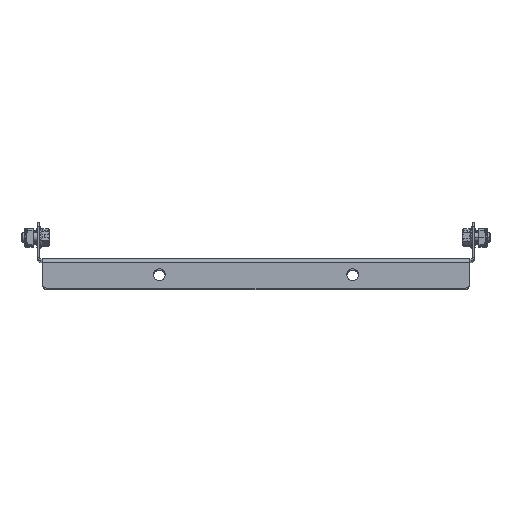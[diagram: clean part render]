
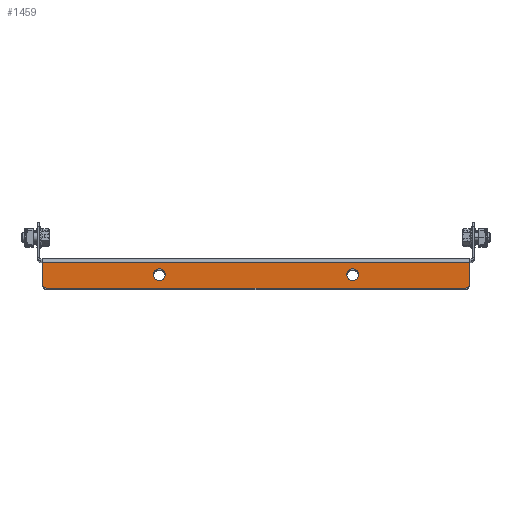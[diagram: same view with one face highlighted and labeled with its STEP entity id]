
A CAD part, top view. The second image highlights one B-rep face of the part: STEP entity #1459.
In plain terms, the highlighted planar face has unit normal (0, 0, 1).
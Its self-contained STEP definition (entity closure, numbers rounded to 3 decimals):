
#150 = AXIS2_PLACEMENT_3D ( 'NONE', #242, #7684, #5619 ) ;
#242 = CARTESIAN_POINT ( 'NONE',  ( 66.008, -10.75, 272. ) ) ;
#284 = VERTEX_POINT ( 'NONE', #1501 ) ;
#404 = EDGE_CURVE ( 'NONE', #284, #1864, #11196, .T. ) ;
#514 = EDGE_CURVE ( 'NONE', #7896, #1498, #3897, .T. ) ;
#589 = CARTESIAN_POINT ( 'NONE',  ( -143., -17., 272. ) ) ;
#677 = DIRECTION ( 'NONE',  ( 0., 1., 0. ) ) ;
#697 = CIRCLE ( 'NONE', #6210, 3. ) ;
#857 = DIRECTION ( 'NONE',  ( 0., 1., 0. ) ) ;
#1048 = CARTESIAN_POINT ( 'NONE',  ( 66.008, -6.75, 272. ) ) ;
#1304 = DIRECTION ( 'NONE',  ( 0., 0., -1. ) ) ;
#1459 = ADVANCED_FACE ( 'NONE', ( #2173, #3700, #1857 ), #4319, .F. ) ;
#1478 = AXIS2_PLACEMENT_3D ( 'NONE', #589, #11138, #6884 ) ;
#1498 = VERTEX_POINT ( 'NONE', #3440 ) ;
#1501 = CARTESIAN_POINT ( 'NONE',  ( -146., -17., 272. ) ) ;
#1857 = FACE_OUTER_BOUND ( 'NONE', #5074, .T. ) ;
#1864 = VERTEX_POINT ( 'NONE', #7654 ) ;
#1970 = CARTESIAN_POINT ( 'NONE',  ( 66.008, -10.75, 272. ) ) ;
#1980 = AXIS2_PLACEMENT_3D ( 'NONE', #4471, #11809, #6638 ) ;
#2028 = ORIENTED_EDGE ( 'NONE', *, *, #12277, .F. ) ;
#2131 = VECTOR ( 'NONE', #12140, 1000. ) ;
#2173 = FACE_BOUND ( 'NONE', #8729, .T. ) ;
#2436 = ORIENTED_EDGE ( 'NONE', *, *, #2490, .T. ) ;
#2453 = CARTESIAN_POINT ( 'NONE',  ( 146., -2.25, 272. ) ) ;
#2490 = EDGE_CURVE ( 'NONE', #3434, #2741, #11669, .T. ) ;
#2741 = VERTEX_POINT ( 'NONE', #9367 ) ;
#2841 = VERTEX_POINT ( 'NONE', #5195 ) ;
#2923 = ORIENTED_EDGE ( 'NONE', *, *, #514, .T. ) ;
#2987 = DIRECTION ( 'NONE',  ( 0., 0., -1. ) ) ;
#3082 = VERTEX_POINT ( 'NONE', #2453 ) ;
#3125 = DIRECTION ( 'NONE',  ( 0., 1., 0. ) ) ;
#3162 = VECTOR ( 'NONE', #3179, 1000. ) ;
#3179 = DIRECTION ( 'NONE',  ( 0., -1., 0. ) ) ;
#3434 = VERTEX_POINT ( 'NONE', #7067 ) ;
#3440 = CARTESIAN_POINT ( 'NONE',  ( 66.008, -14.75, 272. ) ) ;
#3698 = CARTESIAN_POINT ( 'NONE',  ( -66., -10.75, 272. ) ) ;
#3700 = FACE_BOUND ( 'NONE', #10718, .T. ) ;
#3897 = CIRCLE ( 'NONE', #7193, 4. ) ;
#4094 = ORIENTED_EDGE ( 'NONE', *, *, #8366, .T. ) ;
#4317 = VECTOR ( 'NONE', #11971, 1000. ) ;
#4319 = PLANE ( 'NONE',  #11644 ) ;
#4471 = CARTESIAN_POINT ( 'NONE',  ( -66., -10.75, 272. ) ) ;
#4838 = EDGE_CURVE ( 'NONE', #2741, #3434, #6487, .T. ) ;
#5074 = EDGE_LOOP ( 'NONE', ( #5354, #11765, #4094, #2028, #10578, #13376 ) ) ;
#5195 = CARTESIAN_POINT ( 'NONE',  ( 146., -17., 272. ) ) ;
#5336 = LINE ( 'NONE', #8901, #2131 ) ;
#5354 = ORIENTED_EDGE ( 'NONE', *, *, #12155, .T. ) ;
#5578 = CARTESIAN_POINT ( 'NONE',  ( 146., -20., 272. ) ) ;
#5619 = DIRECTION ( 'NONE',  ( 0., 1., 0. ) ) ;
#5681 = ORIENTED_EDGE ( 'NONE', *, *, #6388, .T. ) ;
#5684 = CARTESIAN_POINT ( 'NONE',  ( -146., -2.25, 272. ) ) ;
#5783 = AXIS2_PLACEMENT_3D ( 'NONE', #3698, #13431, #677 ) ;
#6188 = LINE ( 'NONE', #5578, #4317 ) ;
#6210 = AXIS2_PLACEMENT_3D ( 'NONE', #7231, #8416, #3125 ) ;
#6388 = EDGE_CURVE ( 'NONE', #1498, #7896, #13049, .T. ) ;
#6487 = CIRCLE ( 'NONE', #5783, 4. ) ;
#6638 = DIRECTION ( 'NONE',  ( 0., 1., 0. ) ) ;
#6694 = DIRECTION ( 'NONE',  ( 0., 1., 0. ) ) ;
#6884 = DIRECTION ( 'NONE',  ( 0., 1., 0. ) ) ;
#7067 = CARTESIAN_POINT ( 'NONE',  ( -66., -6.75, 272. ) ) ;
#7193 = AXIS2_PLACEMENT_3D ( 'NONE', #1970, #2987, #857 ) ;
#7231 = CARTESIAN_POINT ( 'NONE',  ( 143., -17., 272. ) ) ;
#7400 = CARTESIAN_POINT ( 'NONE',  ( 0., 0., 272. ) ) ;
#7654 = CARTESIAN_POINT ( 'NONE',  ( -143., -20., 272. ) ) ;
#7664 = LINE ( 'NONE', #12711, #3162 ) ;
#7684 = DIRECTION ( 'NONE',  ( 0., 0., -1. ) ) ;
#7896 = VERTEX_POINT ( 'NONE', #1048 ) ;
#8040 = CARTESIAN_POINT ( 'NONE',  ( 143., -20., 272. ) ) ;
#8366 = EDGE_CURVE ( 'NONE', #2841, #3082, #12205, .T. ) ;
#8416 = DIRECTION ( 'NONE',  ( 0., 0., 1. ) ) ;
#8729 = EDGE_LOOP ( 'NONE', ( #2436, #13715 ) ) ;
#8901 = CARTESIAN_POINT ( 'NONE',  ( 0., -2.25, 272. ) ) ;
#9310 = DIRECTION ( 'NONE',  ( 0., 1., 0. ) ) ;
#9367 = CARTESIAN_POINT ( 'NONE',  ( -66., -14.75, 272. ) ) ;
#10375 = CARTESIAN_POINT ( 'NONE',  ( 146., -20., 272. ) ) ;
#10578 = ORIENTED_EDGE ( 'NONE', *, *, #12064, .T. ) ;
#10651 = EDGE_CURVE ( 'NONE', #11077, #2841, #697, .T. ) ;
#10718 = EDGE_LOOP ( 'NONE', ( #2923, #5681 ) ) ;
#11077 = VERTEX_POINT ( 'NONE', #8040 ) ;
#11138 = DIRECTION ( 'NONE',  ( 0., 0., 1. ) ) ;
#11196 = CIRCLE ( 'NONE', #1478, 3. ) ;
#11644 = AXIS2_PLACEMENT_3D ( 'NONE', #7400, #1304, #6694 ) ;
#11669 = CIRCLE ( 'NONE', #1980, 4. ) ;
#11765 = ORIENTED_EDGE ( 'NONE', *, *, #10651, .T. ) ;
#11809 = DIRECTION ( 'NONE',  ( 0., 0., -1. ) ) ;
#11971 = DIRECTION ( 'NONE',  ( 1., 0., 0. ) ) ;
#12051 = VECTOR ( 'NONE', #9310, 1000. ) ;
#12064 = EDGE_CURVE ( 'NONE', #12394, #284, #7664, .T. ) ;
#12140 = DIRECTION ( 'NONE',  ( 1., 0., 0. ) ) ;
#12155 = EDGE_CURVE ( 'NONE', #1864, #11077, #6188, .T. ) ;
#12205 = LINE ( 'NONE', #10375, #12051 ) ;
#12277 = EDGE_CURVE ( 'NONE', #12394, #3082, #5336, .T. ) ;
#12394 = VERTEX_POINT ( 'NONE', #5684 ) ;
#12711 = CARTESIAN_POINT ( 'NONE',  ( -146., -20., 272. ) ) ;
#13049 = CIRCLE ( 'NONE', #150, 4. ) ;
#13376 = ORIENTED_EDGE ( 'NONE', *, *, #404, .T. ) ;
#13431 = DIRECTION ( 'NONE',  ( 0., 0., -1. ) ) ;
#13715 = ORIENTED_EDGE ( 'NONE', *, *, #4838, .T. ) ;
